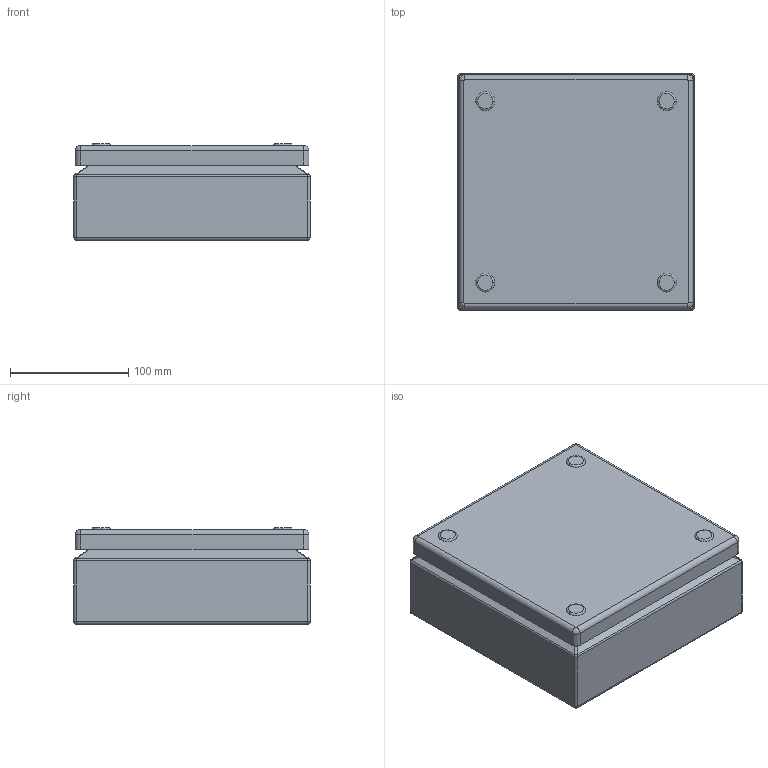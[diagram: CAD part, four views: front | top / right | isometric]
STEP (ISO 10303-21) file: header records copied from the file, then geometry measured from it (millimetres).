
FILE_DESCRIPTION (( 'STEP AP203' ), '1' );
FILE_NAME ('EGRAN2-208X.STEP', '2015-07-24T12:04:40', ( 'Admin' ), ( 'Hewlett-Packard Company' ), 'SwSTEP 2.0', 'SolidWorks 2015', '' );
FILE_SCHEMA (( 'CONFIG_CONTROL_DESIGN' ));
Length unit declared in the file: millimetre
Products named in the file (3): AR_EGRAN_inox_pannello_0200x0200; EGRAN2-208X; AR_EGRAN_inox_involucro_0200x0200x080
Assembly tree (2 placements, depth 2):
  EGRAN2-208X
    AR_EGRAN_inox_involucro_0200x0200x080
    AR_EGRAN_inox_pannello_0200x0200
Bounding box: 200 x 200 x 81.5 mm (x, y, z)
Volume: 232901.6 mm3; surface area: 326714.6 mm2
Topology: 2 solids, 2 shells, 449 faces, 1148 edges, 699 vertices
Faces by surface type: plane 222, cylinder 163, torus 40, sphere 16, bspline 8
Entity records: 14070 total; most frequent: CARTESIAN_POINT 2784, DIRECTION 2369, ORIENTED_EDGE 2264, EDGE_CURVE 1132, AXIS2_PLACEMENT_3D 824, LINE 721, VECTOR 721, VERTEX_POINT 699
